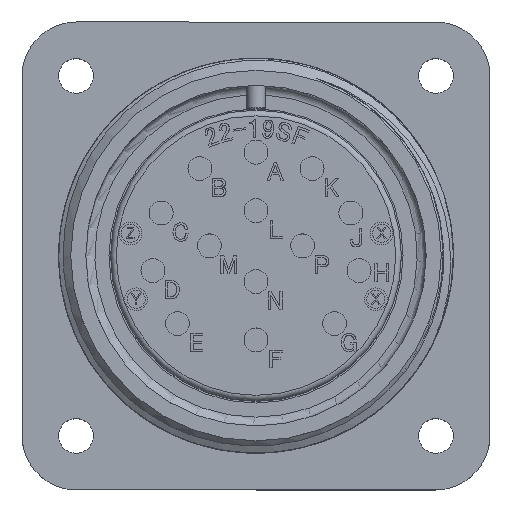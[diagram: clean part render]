
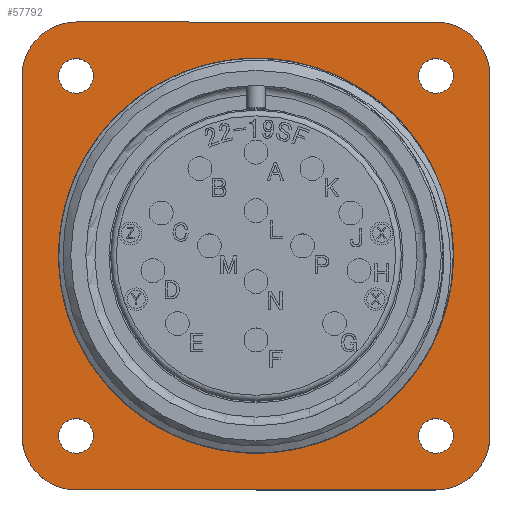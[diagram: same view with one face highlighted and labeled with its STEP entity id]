
A CAD part, top view. The second image highlights one B-rep face of the part: STEP entity #57792.
In plain terms, the highlighted planar face has unit normal (0, 0, 1).
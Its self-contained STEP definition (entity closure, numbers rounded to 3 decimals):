
#172 = EDGE_CURVE ( 'NONE', #60493, #53084, #68887, .T. ) ;
#404 = DIRECTION ( 'NONE',  ( 0., 0., -1. ) ) ;
#1271 = DIRECTION ( 'NONE',  ( -1., 0., 0. ) ) ;
#2156 = AXIS2_PLACEMENT_3D ( 'NONE', #6111, #55023, #61145 ) ;
#4008 = EDGE_LOOP ( 'NONE', ( #37953 ) ) ;
#4031 = CARTESIAN_POINT ( 'NONE',  ( 14.35, -15.875, -19.2 ) ) ;
#4071 = EDGE_LOOP ( 'NONE', ( #27590 ) ) ;
#5520 = CARTESIAN_POINT ( 'NONE',  ( -15.835, 20.635, -19.2 ) ) ;
#5552 = LINE ( 'NONE', #14861, #18041 ) ;
#6075 = DIRECTION ( 'NONE',  ( 0., -1., 0. ) ) ;
#6111 = CARTESIAN_POINT ( 'NONE',  ( 15.835, -15.835, -19.2 ) ) ;
#6827 = CARTESIAN_POINT ( 'NONE',  ( 15.835, -20.635, -19.2 ) ) ;
#7270 = CARTESIAN_POINT ( 'NONE',  ( -15.835, -15.835, -19.2 ) ) ;
#8642 = DIRECTION ( 'NONE',  ( 0., 0., -1. ) ) ;
#8695 = ORIENTED_EDGE ( 'NONE', *, *, #36528, .F. ) ;
#9250 = EDGE_LOOP ( 'NONE', ( #27871 ) ) ;
#10057 = ORIENTED_EDGE ( 'NONE', *, *, #27649, .F. ) ;
#10122 = ORIENTED_EDGE ( 'NONE', *, *, #73208, .F. ) ;
#10373 = CARTESIAN_POINT ( 'NONE',  ( 15.835, 20.635, -19.2 ) ) ;
#11418 = CARTESIAN_POINT ( 'NONE',  ( 20.635, 15.835, -19.2 ) ) ;
#12715 = CARTESIAN_POINT ( 'NONE',  ( 15.875, 15.875, -19.2 ) ) ;
#13183 = DIRECTION ( 'NONE',  ( -1., 0., 0. ) ) ;
#13270 = AXIS2_PLACEMENT_3D ( 'NONE', #12715, #404, #42972 ) ;
#14337 = CARTESIAN_POINT ( 'NONE',  ( -15.835, 15.835, -19.2 ) ) ;
#14830 = CARTESIAN_POINT ( 'NONE',  ( 0., 0., -19.2 ) ) ;
#14835 = CARTESIAN_POINT ( 'NONE',  ( -20.635, 15.835, -19.2 ) ) ;
#14861 = CARTESIAN_POINT ( 'NONE',  ( -20.635, 15.835, -19.2 ) ) ;
#15821 = EDGE_CURVE ( 'NONE', #77843, #77843, #44421, .T. ) ;
#16229 = LINE ( 'NONE', #61721, #39127 ) ;
#16569 = ORIENTED_EDGE ( 'NONE', *, *, #50997, .F. ) ;
#16968 = AXIS2_PLACEMENT_3D ( 'NONE', #29385, #22997, #77887 ) ;
#17320 = CARTESIAN_POINT ( 'NONE',  ( 15.835, 20.635, -19.2 ) ) ;
#18041 = VECTOR ( 'NONE', #33264, 1000. ) ;
#18690 = PLANE ( 'NONE',  #50016 ) ;
#18913 = EDGE_CURVE ( 'NONE', #55654, #55654, #46068, .T. ) ;
#20754 = FACE_BOUND ( 'NONE', #39761, .T. ) ;
#22165 = CARTESIAN_POINT ( 'NONE',  ( -15.875, -15.875, -19.2 ) ) ;
#22997 = DIRECTION ( 'NONE',  ( 0., 0., -1. ) ) ;
#23123 = AXIS2_PLACEMENT_3D ( 'NONE', #22165, #76538, #28297 ) ;
#24487 = FACE_BOUND ( 'NONE', #77147, .T. ) ;
#24921 = CIRCLE ( 'NONE', #2156, 4.8 ) ;
#25263 = VERTEX_POINT ( 'NONE', #5520 ) ;
#25425 = VERTEX_POINT ( 'NONE', #6827 ) ;
#27421 = DIRECTION ( 'NONE',  ( -1., 0., 0. ) ) ;
#27590 = ORIENTED_EDGE ( 'NONE', *, *, #72100, .T. ) ;
#27603 = CIRCLE ( 'NONE', #52405, 4.8 ) ;
#27640 = LINE ( 'NONE', #10373, #43891 ) ;
#27649 = EDGE_CURVE ( 'NONE', #53084, #46509, #75097, .T. ) ;
#27871 = ORIENTED_EDGE ( 'NONE', *, *, #18913, .T. ) ;
#28297 = DIRECTION ( 'NONE',  ( -1., 0., 0. ) ) ;
#29385 = CARTESIAN_POINT ( 'NONE',  ( -15.875, 15.875, -19.2 ) ) ;
#32333 = DIRECTION ( 'NONE',  ( -1., 0., 0. ) ) ;
#32633 = ORIENTED_EDGE ( 'NONE', *, *, #61393, .T. ) ;
#33264 = DIRECTION ( 'NONE',  ( 0., 1., 0. ) ) ;
#35193 = AXIS2_PLACEMENT_3D ( 'NONE', #55766, #68544, #68812 ) ;
#36528 = EDGE_CURVE ( 'NONE', #66309, #25263, #27603, .T. ) ;
#37953 = ORIENTED_EDGE ( 'NONE', *, *, #15821, .T. ) ;
#38316 = DIRECTION ( 'NONE',  ( -1., 0., 0. ) ) ;
#38437 = ORIENTED_EDGE ( 'NONE', *, *, #70283, .F. ) ;
#39127 = VECTOR ( 'NONE', #32333, 1000. ) ;
#39186 = CARTESIAN_POINT ( 'NONE',  ( 15.835, 15.835, -19.2 ) ) ;
#39761 = EDGE_LOOP ( 'NONE', ( #49861 ) ) ;
#39895 = AXIS2_PLACEMENT_3D ( 'NONE', #39186, #70382, #27421 ) ;
#40175 = CARTESIAN_POINT ( 'NONE',  ( -17.4, -15.875, -19.2 ) ) ;
#40332 = VERTEX_POINT ( 'NONE', #4031 ) ;
#40386 = EDGE_CURVE ( 'NONE', #67784, #66309, #5552, .T. ) ;
#41678 = CIRCLE ( 'NONE', #54693, 4.8 ) ;
#42011 = ORIENTED_EDGE ( 'NONE', *, *, #40386, .F. ) ;
#42972 = DIRECTION ( 'NONE',  ( -1., 0., 0. ) ) ;
#43675 = VECTOR ( 'NONE', #6075, 1000. ) ;
#43891 = VECTOR ( 'NONE', #47261, 1000. ) ;
#44421 = CIRCLE ( 'NONE', #13270, 1.525 ) ;
#46068 = CIRCLE ( 'NONE', #23123, 1.525 ) ;
#46509 = VERTEX_POINT ( 'NONE', #63684 ) ;
#46584 = CARTESIAN_POINT ( 'NONE',  ( -17.415, 0., -19.2 ) ) ;
#47261 = DIRECTION ( 'NONE',  ( 1., 0., 0. ) ) ;
#47307 = CIRCLE ( 'NONE', #16968, 1.525 ) ;
#47514 = ORIENTED_EDGE ( 'NONE', *, *, #69931, .F. ) ;
#48346 = FACE_BOUND ( 'NONE', #4008, .T. ) ;
#48610 = CARTESIAN_POINT ( 'NONE',  ( 20.635, 15.835, -19.2 ) ) ;
#49861 = ORIENTED_EDGE ( 'NONE', *, *, #57088, .T. ) ;
#50016 = AXIS2_PLACEMENT_3D ( 'NONE', #56298, #74341, #1271 ) ;
#50033 = DIRECTION ( 'NONE',  ( 0., 0., -1. ) ) ;
#50111 = DIRECTION ( 'NONE',  ( 0., 0., -1. ) ) ;
#50997 = EDGE_CURVE ( 'NONE', #46509, #25425, #24921, .T. ) ;
#51233 = CARTESIAN_POINT ( 'NONE',  ( -15.835, -20.635, -19.2 ) ) ;
#52405 = AXIS2_PLACEMENT_3D ( 'NONE', #14337, #50111, #68515 ) ;
#53084 = VERTEX_POINT ( 'NONE', #11418 ) ;
#54233 = EDGE_LOOP ( 'NONE', ( #10122, #47514, #16569, #10057, #54769, #38437, #8695, #42011 ) ) ;
#54693 = AXIS2_PLACEMENT_3D ( 'NONE', #7270, #50033, #13183 ) ;
#54769 = ORIENTED_EDGE ( 'NONE', *, *, #172, .F. ) ;
#55023 = DIRECTION ( 'NONE',  ( 0., 0., -1. ) ) ;
#55654 = VERTEX_POINT ( 'NONE', #40175 ) ;
#55766 = CARTESIAN_POINT ( 'NONE',  ( 15.875, -15.875, -19.2 ) ) ;
#56298 = CARTESIAN_POINT ( 'NONE',  ( -15.835, -15.835, -19.2 ) ) ;
#57088 = EDGE_CURVE ( 'NONE', #40332, #40332, #78711, .T. ) ;
#57792 = ADVANCED_FACE ( 'NONE', ( #77100, #20754, #72245, #24487, #48346, #73063 ), #18690, .F. ) ;
#60493 = VERTEX_POINT ( 'NONE', #17320 ) ;
#61145 = DIRECTION ( 'NONE',  ( -1., 0., 0. ) ) ;
#61393 = EDGE_CURVE ( 'NONE', #67985, #67985, #47307, .T. ) ;
#61721 = CARTESIAN_POINT ( 'NONE',  ( 15.835, -20.635, -19.2 ) ) ;
#63406 = CARTESIAN_POINT ( 'NONE',  ( -20.635, -15.835, -19.2 ) ) ;
#63684 = CARTESIAN_POINT ( 'NONE',  ( 20.635, -15.835, -19.2 ) ) ;
#63906 = CARTESIAN_POINT ( 'NONE',  ( 14.35, 15.875, -19.2 ) ) ;
#64207 = VERTEX_POINT ( 'NONE', #46584 ) ;
#66309 = VERTEX_POINT ( 'NONE', #14835 ) ;
#67501 = CIRCLE ( 'NONE', #78557, 17.415 ) ;
#67784 = VERTEX_POINT ( 'NONE', #63406 ) ;
#67985 = VERTEX_POINT ( 'NONE', #77387 ) ;
#68515 = DIRECTION ( 'NONE',  ( 1., 0., 0. ) ) ;
#68544 = DIRECTION ( 'NONE',  ( 0., 0., -1. ) ) ;
#68812 = DIRECTION ( 'NONE',  ( -1., 0., 0. ) ) ;
#68887 = CIRCLE ( 'NONE', #39895, 4.8 ) ;
#69931 = EDGE_CURVE ( 'NONE', #25425, #75337, #16229, .T. ) ;
#70283 = EDGE_CURVE ( 'NONE', #25263, #60493, #27640, .T. ) ;
#70382 = DIRECTION ( 'NONE',  ( 0., 0., -1. ) ) ;
#72100 = EDGE_CURVE ( 'NONE', #64207, #64207, #67501, .T. ) ;
#72245 = FACE_BOUND ( 'NONE', #9250, .T. ) ;
#73063 = FACE_OUTER_BOUND ( 'NONE', #54233, .T. ) ;
#73208 = EDGE_CURVE ( 'NONE', #75337, #67784, #41678, .T. ) ;
#74341 = DIRECTION ( 'NONE',  ( 0., 0., -1. ) ) ;
#75097 = LINE ( 'NONE', #48610, #43675 ) ;
#75337 = VERTEX_POINT ( 'NONE', #51233 ) ;
#76538 = DIRECTION ( 'NONE',  ( 0., 0., -1. ) ) ;
#77100 = FACE_BOUND ( 'NONE', #4071, .T. ) ;
#77147 = EDGE_LOOP ( 'NONE', ( #32633 ) ) ;
#77387 = CARTESIAN_POINT ( 'NONE',  ( -17.4, 15.875, -19.2 ) ) ;
#77843 = VERTEX_POINT ( 'NONE', #63906 ) ;
#77887 = DIRECTION ( 'NONE',  ( -1., 0., 0. ) ) ;
#78557 = AXIS2_PLACEMENT_3D ( 'NONE', #14830, #8642, #38316 ) ;
#78711 = CIRCLE ( 'NONE', #35193, 1.525 ) ;
